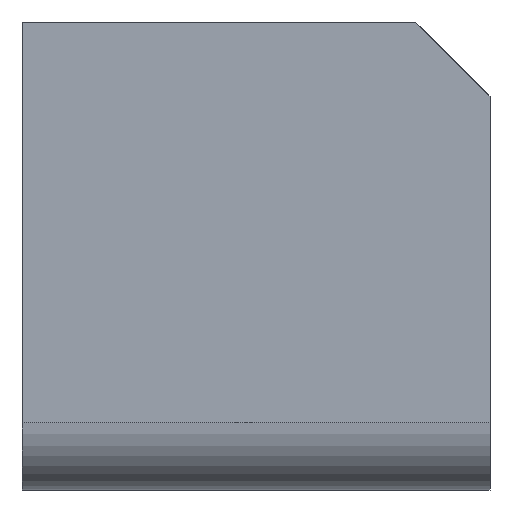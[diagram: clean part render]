
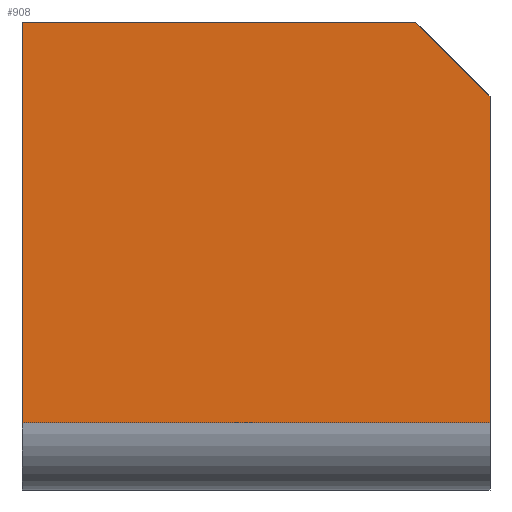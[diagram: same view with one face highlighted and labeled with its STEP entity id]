
A CAD part, front view. The second image highlights one B-rep face of the part: STEP entity #908.
In plain terms, the highlighted planar face has unit normal (0, -1, 0).
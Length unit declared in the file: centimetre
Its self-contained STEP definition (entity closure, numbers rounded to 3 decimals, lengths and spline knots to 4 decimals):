
#22 = CARTESIAN_POINT ( 'NONE',  ( 0., 0., 1000. ) ) ;
#23 = LINE ( 'NONE', #1346, #249 ) ;
#58 = CARTESIAN_POINT ( 'NONE',  ( 841.2383, 0., 1000. ) ) ;
#83 = PLANE ( 'NONE',  #169 ) ;
#169 = AXIS2_PLACEMENT_3D ( 'NONE', #1240, #309, #1018 ) ;
#216 = EDGE_CURVE ( 'NONE', #1557, #1256, #388, .T. ) ;
#249 = VECTOR ( 'NONE', #1915, 100. ) ;
#309 = DIRECTION ( 'NONE',  ( 0., 1., 0. ) ) ;
#353 = VECTOR ( 'NONE', #1694, 100. ) ;
#388 = LINE ( 'NONE', #22, #353 ) ;
#409 = ORIENTED_EDGE ( 'NONE', *, *, #1973, .T. ) ;
#448 = ORIENTED_EDGE ( 'NONE', *, *, #216, .F. ) ;
#449 = ORIENTED_EDGE ( 'NONE', *, *, #1739, .T. ) ;
#652 = FACE_OUTER_BOUND ( 'NONE', #2376, .T. ) ;
#711 = ORIENTED_EDGE ( 'NONE', *, *, #1186, .F. ) ;
#806 = DIRECTION ( 'NONE',  ( -0.707, 0., 0.707 ) ) ;
#908 = ADVANCED_FACE ( 'NONE', ( #652 ), #83, .F. ) ;
#956 = DIRECTION ( 'NONE',  ( 1., 0., 0. ) ) ;
#990 = CARTESIAN_POINT ( 'NONE',  ( 0., 0., 143.8972 ) ) ;
#1008 = CARTESIAN_POINT ( 'NONE',  ( 0., 0., 1000. ) ) ;
#1018 = DIRECTION ( 'NONE',  ( 0., 0., 1. ) ) ;
#1176 = LINE ( 'NONE', #990, #2208 ) ;
#1186 = EDGE_CURVE ( 'NONE', #1777, #2018, #23, .T. ) ;
#1240 = CARTESIAN_POINT ( 'NONE',  ( 0., 0., 1000. ) ) ;
#1256 = VERTEX_POINT ( 'NONE', #2265 ) ;
#1260 = EDGE_CURVE ( 'NONE', #2084, #2018, #1176, .T. ) ;
#1346 = CARTESIAN_POINT ( 'NONE',  ( 1000., 0., 1000. ) ) ;
#1354 = CARTESIAN_POINT ( 'NONE',  ( 0., 0., 1000. ) ) ;
#1398 = CARTESIAN_POINT ( 'NONE',  ( 1000., 0., 143.8972 ) ) ;
#1420 = DIRECTION ( 'NONE',  ( 0., 0., -1. ) ) ;
#1489 = VECTOR ( 'NONE', #1420, 100. ) ;
#1557 = VERTEX_POINT ( 'NONE', #1354 ) ;
#1694 = DIRECTION ( 'NONE',  ( 1., 0., 0. ) ) ;
#1723 = VECTOR ( 'NONE', #806, 100. ) ;
#1739 = EDGE_CURVE ( 'NONE', #1557, #2084, #2343, .T. ) ;
#1777 = VERTEX_POINT ( 'NONE', #1975 ) ;
#1915 = DIRECTION ( 'NONE',  ( 0., 0., -1. ) ) ;
#1973 = EDGE_CURVE ( 'NONE', #1777, #1256, #2255, .T. ) ;
#1975 = CARTESIAN_POINT ( 'NONE',  ( 1000., 0., 841.2383 ) ) ;
#2018 = VERTEX_POINT ( 'NONE', #1398 ) ;
#2084 = VERTEX_POINT ( 'NONE', #2337 ) ;
#2178 = ORIENTED_EDGE ( 'NONE', *, *, #1260, .T. ) ;
#2208 = VECTOR ( 'NONE', #956, 100. ) ;
#2255 = LINE ( 'NONE', #58, #1723 ) ;
#2265 = CARTESIAN_POINT ( 'NONE',  ( 841.2383, 0., 1000. ) ) ;
#2337 = CARTESIAN_POINT ( 'NONE',  ( 0., 0., 143.8972 ) ) ;
#2343 = LINE ( 'NONE', #1008, #1489 ) ;
#2376 = EDGE_LOOP ( 'NONE', ( #449, #2178, #711, #409, #448 ) ) ;
